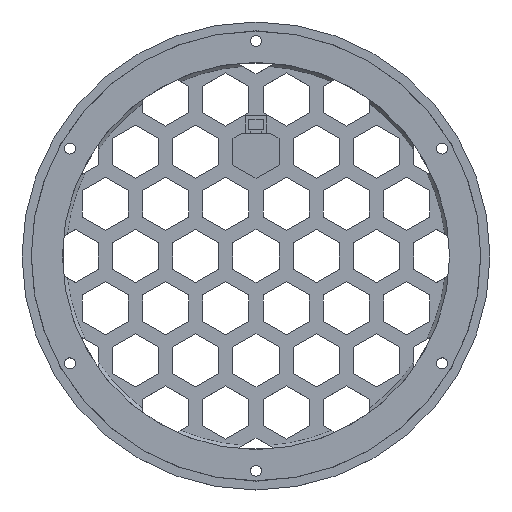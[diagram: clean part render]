
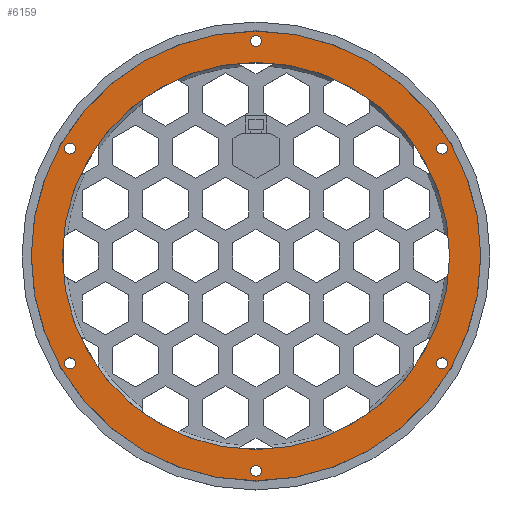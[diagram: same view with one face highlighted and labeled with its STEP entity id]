
A CAD part, top view. The second image highlights one B-rep face of the part: STEP entity #6159.
In plain terms, the highlighted planar face has unit normal (0, 0, 1).
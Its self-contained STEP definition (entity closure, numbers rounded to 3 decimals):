
#103=FACE_BOUND('',#849,.T.);
#104=FACE_BOUND('',#850,.T.);
#105=FACE_BOUND('',#851,.T.);
#106=FACE_BOUND('',#852,.T.);
#107=FACE_BOUND('',#853,.T.);
#108=FACE_BOUND('',#854,.T.);
#109=FACE_BOUND('',#855,.T.);
#225=CIRCLE('',#6524,63.4);
#226=CIRCLE('',#6525,63.4);
#234=CIRCLE('',#6534,1.55);
#235=CIRCLE('',#6535,1.55);
#236=CIRCLE('',#6536,1.55);
#237=CIRCLE('',#6537,1.55);
#238=CIRCLE('',#6538,1.55);
#239=CIRCLE('',#6539,1.55);
#240=CIRCLE('',#6540,1.55);
#241=CIRCLE('',#6541,1.55);
#242=CIRCLE('',#6542,1.55);
#243=CIRCLE('',#6543,1.55);
#244=CIRCLE('',#6544,1.55);
#245=CIRCLE('',#6545,1.55);
#246=CIRCLE('',#6546,54.6);
#532=FACE_OUTER_BOUND('',#848,.T.);
#848=EDGE_LOOP('',(#5272,#5273));
#849=EDGE_LOOP('',(#5274,#5275));
#850=EDGE_LOOP('',(#5276,#5277));
#851=EDGE_LOOP('',(#5278,#5279));
#852=EDGE_LOOP('',(#5280,#5281));
#853=EDGE_LOOP('',(#5282,#5283));
#854=EDGE_LOOP('',(#5284,#5285));
#855=EDGE_LOOP('',(#5286));
#2981=VERTEX_POINT('',#9808);
#2982=VERTEX_POINT('',#9809);
#2984=VERTEX_POINT('',#9822);
#2985=VERTEX_POINT('',#9823);
#2986=VERTEX_POINT('',#9826);
#2987=VERTEX_POINT('',#9827);
#2988=VERTEX_POINT('',#9830);
#2989=VERTEX_POINT('',#9831);
#2990=VERTEX_POINT('',#9834);
#2991=VERTEX_POINT('',#9835);
#2992=VERTEX_POINT('',#9838);
#2993=VERTEX_POINT('',#9839);
#2994=VERTEX_POINT('',#9842);
#2995=VERTEX_POINT('',#9843);
#2996=VERTEX_POINT('',#9846);
#3833=EDGE_CURVE('',#2981,#2982,#225,.T.);
#3834=EDGE_CURVE('',#2982,#2981,#226,.T.);
#3843=EDGE_CURVE('',#2984,#2985,#234,.T.);
#3844=EDGE_CURVE('',#2985,#2984,#235,.T.);
#3845=EDGE_CURVE('',#2986,#2987,#236,.T.);
#3846=EDGE_CURVE('',#2987,#2986,#237,.T.);
#3847=EDGE_CURVE('',#2988,#2989,#238,.T.);
#3848=EDGE_CURVE('',#2989,#2988,#239,.T.);
#3849=EDGE_CURVE('',#2990,#2991,#240,.T.);
#3850=EDGE_CURVE('',#2991,#2990,#241,.T.);
#3851=EDGE_CURVE('',#2992,#2993,#242,.T.);
#3852=EDGE_CURVE('',#2993,#2992,#243,.T.);
#3853=EDGE_CURVE('',#2994,#2995,#244,.T.);
#3854=EDGE_CURVE('',#2995,#2994,#245,.T.);
#3855=EDGE_CURVE('',#2996,#2996,#246,.F.);
#5272=ORIENTED_EDGE('',*,*,#3833,.T.);
#5273=ORIENTED_EDGE('',*,*,#3834,.T.);
#5274=ORIENTED_EDGE('',*,*,#3843,.T.);
#5275=ORIENTED_EDGE('',*,*,#3844,.T.);
#5276=ORIENTED_EDGE('',*,*,#3845,.T.);
#5277=ORIENTED_EDGE('',*,*,#3846,.T.);
#5278=ORIENTED_EDGE('',*,*,#3847,.T.);
#5279=ORIENTED_EDGE('',*,*,#3848,.T.);
#5280=ORIENTED_EDGE('',*,*,#3849,.T.);
#5281=ORIENTED_EDGE('',*,*,#3850,.T.);
#5282=ORIENTED_EDGE('',*,*,#3851,.T.);
#5283=ORIENTED_EDGE('',*,*,#3852,.T.);
#5284=ORIENTED_EDGE('',*,*,#3853,.T.);
#5285=ORIENTED_EDGE('',*,*,#3854,.T.);
#5286=ORIENTED_EDGE('',*,*,#3855,.T.);
#5888=PLANE('',#6533);
#6159=ADVANCED_FACE('',(#532,#103,#104,#105,#106,#107,#108,#109),#5888,
 .T.);
#6524=AXIS2_PLACEMENT_3D('',#9810,#7985,#7986);
#6525=AXIS2_PLACEMENT_3D('',#9811,#7987,#7988);
#6533=AXIS2_PLACEMENT_3D('',#9821,#8004,#8005);
#6534=AXIS2_PLACEMENT_3D('',#9824,#8006,#8007);
#6535=AXIS2_PLACEMENT_3D('',#9825,#8008,#8009);
#6536=AXIS2_PLACEMENT_3D('',#9828,#8010,#8011);
#6537=AXIS2_PLACEMENT_3D('',#9829,#8012,#8013);
#6538=AXIS2_PLACEMENT_3D('',#9832,#8014,#8015);
#6539=AXIS2_PLACEMENT_3D('',#9833,#8016,#8017);
#6540=AXIS2_PLACEMENT_3D('',#9836,#8018,#8019);
#6541=AXIS2_PLACEMENT_3D('',#9837,#8020,#8021);
#6542=AXIS2_PLACEMENT_3D('',#9840,#8022,#8023);
#6543=AXIS2_PLACEMENT_3D('',#9841,#8024,#8025);
#6544=AXIS2_PLACEMENT_3D('',#9844,#8026,#8027);
#6545=AXIS2_PLACEMENT_3D('',#9845,#8028,#8029);
#6546=AXIS2_PLACEMENT_3D('',#9847,#8030,#8031);
#7985=DIRECTION('center_axis',(0.,0.,1.));
#7986=DIRECTION('ref_axis',(1.,0.,0.));
#7987=DIRECTION('center_axis',(0.,0.,1.));
#7988=DIRECTION('ref_axis',(1.,0.,0.));
#8004=DIRECTION('center_axis',(0.,0.,1.));
#8005=DIRECTION('ref_axis',(1.,0.,0.));
#8006=DIRECTION('center_axis',(0.,0.,-1.));
#8007=DIRECTION('ref_axis',(-1.,0.,0.));
#8008=DIRECTION('center_axis',(0.,0.,-1.));
#8009=DIRECTION('ref_axis',(-1.,0.,0.));
#8010=DIRECTION('center_axis',(0.,0.,-1.));
#8011=DIRECTION('ref_axis',(-1.,0.,0.));
#8012=DIRECTION('center_axis',(0.,0.,-1.));
#8013=DIRECTION('ref_axis',(-1.,0.,0.));
#8014=DIRECTION('center_axis',(0.,0.,-1.));
#8015=DIRECTION('ref_axis',(-1.,0.,0.));
#8016=DIRECTION('center_axis',(0.,0.,-1.));
#8017=DIRECTION('ref_axis',(-1.,0.,0.));
#8018=DIRECTION('center_axis',(0.,0.,-1.));
#8019=DIRECTION('ref_axis',(-1.,0.,0.));
#8020=DIRECTION('center_axis',(0.,0.,-1.));
#8021=DIRECTION('ref_axis',(-1.,0.,0.));
#8022=DIRECTION('center_axis',(0.,0.,-1.));
#8023=DIRECTION('ref_axis',(-1.,0.,0.));
#8024=DIRECTION('center_axis',(0.,0.,-1.));
#8025=DIRECTION('ref_axis',(-1.,0.,0.));
#8026=DIRECTION('center_axis',(0.,0.,-1.));
#8027=DIRECTION('ref_axis',(-1.,0.,0.));
#8028=DIRECTION('center_axis',(0.,0.,-1.));
#8029=DIRECTION('ref_axis',(-1.,0.,0.));
#8030=DIRECTION('center_axis',(0.,0.,1.));
#8031=DIRECTION('ref_axis',(-1.,0.,0.));
#9808=CARTESIAN_POINT('',(63.4,0.,6.));
#9809=CARTESIAN_POINT('',(-63.4,0.,6.));
#9810=CARTESIAN_POINT('Origin',(0.,0.,6.));
#9811=CARTESIAN_POINT('Origin',(0.,0.,6.));
#9821=CARTESIAN_POINT('Origin',(0.,0.,6.));
#9822=CARTESIAN_POINT('',(1.55,-60.6,6.));
#9823=CARTESIAN_POINT('',(-1.55,-60.6,6.));
#9824=CARTESIAN_POINT('Origin',(0.,-60.6,6.));
#9825=CARTESIAN_POINT('Origin',(0.,-60.6,6.));
#9826=CARTESIAN_POINT('',(1.55,60.6,6.));
#9827=CARTESIAN_POINT('',(-1.55,60.6,6.));
#9828=CARTESIAN_POINT('Origin',(0.,60.6,6.));
#9829=CARTESIAN_POINT('Origin',(0.,60.6,6.));
#9830=CARTESIAN_POINT('',(54.031,-30.3,6.));
#9831=CARTESIAN_POINT('',(50.931,-30.3,6.));
#9832=CARTESIAN_POINT('Origin',(52.481,-30.3,6.));
#9833=CARTESIAN_POINT('Origin',(52.481,-30.3,6.));
#9834=CARTESIAN_POINT('',(-50.931,-30.3,6.));
#9835=CARTESIAN_POINT('',(-54.031,-30.3,6.));
#9836=CARTESIAN_POINT('Origin',(-52.481,-30.3,6.));
#9837=CARTESIAN_POINT('Origin',(-52.481,-30.3,6.));
#9838=CARTESIAN_POINT('',(-50.931,30.3,6.));
#9839=CARTESIAN_POINT('',(-54.031,30.3,6.));
#9840=CARTESIAN_POINT('Origin',(-52.481,30.3,6.));
#9841=CARTESIAN_POINT('Origin',(-52.481,30.3,6.));
#9842=CARTESIAN_POINT('',(54.031,30.3,6.));
#9843=CARTESIAN_POINT('',(50.931,30.3,6.));
#9844=CARTESIAN_POINT('Origin',(52.481,30.3,6.));
#9845=CARTESIAN_POINT('Origin',(52.481,30.3,6.));
#9846=CARTESIAN_POINT('',(54.6,0.,6.));
#9847=CARTESIAN_POINT('Origin',(0.,0.,6.));
